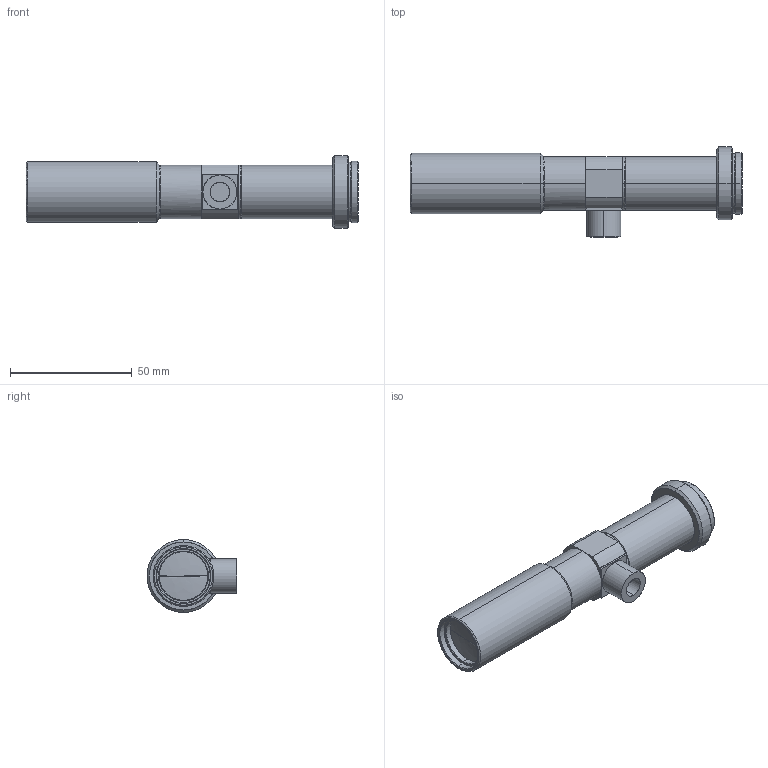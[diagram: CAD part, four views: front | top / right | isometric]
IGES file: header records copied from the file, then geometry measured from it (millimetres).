
Start section: SolidWorks IGES file using analytic representation for surfaces
Global section: file name: \\192.168.1.203\Development\02 テレセントリックレンズ\01 VS-TC／TC-LD Series\04 Super Long WD(WD150～250)\010 VS-TC1-150CO\3D_作成中\TC1-150CO.IGS; native system: SolidWorks 2012; preprocessor: SolidWorks 2012; author: I-3Dcad; date: 140228.173623; units: millimetre
Bounding box: 136.5 x 37 x 30 mm (x, y, z)
Surface area: 15428.8 mm2 (no closed solid volume)
Topology: 0 solids, 0 shells, 97 faces, 1134 edges, 1133 vertices
Faces by surface type: revolution 68, bspline 29
